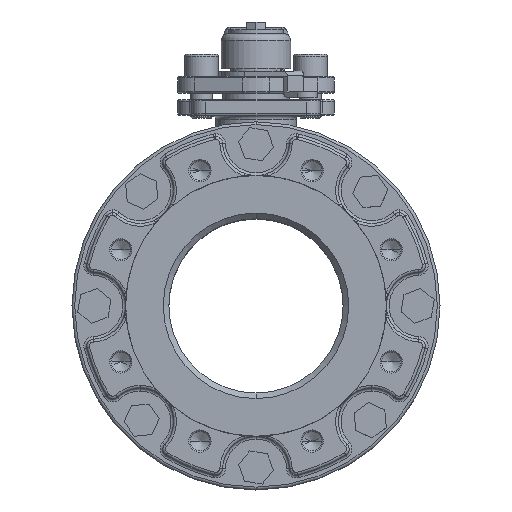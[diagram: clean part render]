
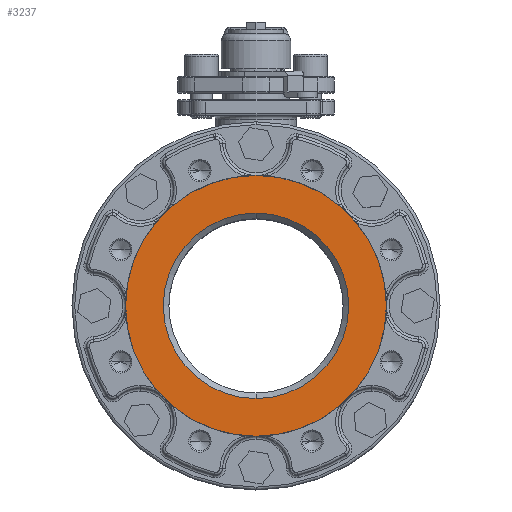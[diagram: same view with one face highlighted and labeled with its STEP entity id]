
A CAD part, top view. The second image highlights one B-rep face of the part: STEP entity #3237.
In plain terms, the highlighted planar face has unit normal (0, 0, 1) as drawn and (1, 0, 0) by its records, which use the part's own axes.
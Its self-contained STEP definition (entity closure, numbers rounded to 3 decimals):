
#1372 = EDGE_CURVE ( 'NONE', #2033, #2034, #8233, .T. ) ;
#1400 = EDGE_CURVE ( 'NONE', #2040, #2047, #8271, .T. ) ;
#2033 = VERTEX_POINT ( 'NONE', #10384 ) ;
#2034 = VERTEX_POINT ( 'NONE', #10385 ) ;
#2040 = VERTEX_POINT ( 'NONE', #10391 ) ;
#2047 = VERTEX_POINT ( 'NONE', #10398 ) ;
#2601 = ORIENTED_EDGE ( 'NONE', *, *, #1372, .T. ) ;
#2602 = ORIENTED_EDGE ( 'NONE', *, *, #3001, .T. ) ;
#2603 = ORIENTED_EDGE ( 'NONE', *, *, #1400, .T. ) ;
#2604 = ORIENTED_EDGE ( 'NONE', *, *, #3002, .T. ) ;
#3001 = EDGE_CURVE ( 'NONE', #2034, #2033, #9748, .T. ) ;
#3002 = EDGE_CURVE ( 'NONE', #2047, #2040, #9745, .T. ) ;
#3237 = ADVANCED_FACE ( 'NONE', ( #11723, #11731 ), #11732, .T. ) ;
#6157 = EDGE_LOOP ( 'NONE', ( #2601, #2602 ) ) ;
#6160 = EDGE_LOOP ( 'NONE', ( #2603, #2604 ) ) ;
#8233 = CIRCLE ( 'NONE', #8237, 66.5 ) ;
#8237 = AXIS2_PLACEMENT_3D ( 'NONE', #8660, #8661, #8662 ) ;
#8271 = CIRCLE ( 'NONE', #8273, 93.5 ) ;
#8273 = AXIS2_PLACEMENT_3D ( 'NONE', #8800, #8801, #8802 ) ;
#8660 = CARTESIAN_POINT ( 'NONE',  ( 97., 0., 0. ) ) ;
#8661 = DIRECTION ( 'NONE',  ( -1., 0., 0. ) ) ;
#8662 = DIRECTION ( 'NONE',  ( 0., 1., 0. ) ) ;
#8800 = CARTESIAN_POINT ( 'NONE',  ( 97., 0., 0. ) ) ;
#8801 = DIRECTION ( 'NONE',  ( 1., 0., 0. ) ) ;
#8802 = DIRECTION ( 'NONE',  ( 0., 1., 0. ) ) ;
#9742 = AXIS2_PLACEMENT_3D ( 'NONE', #10831, #10832, #10833 ) ;
#9744 = AXIS2_PLACEMENT_3D ( 'NONE', #10828, #10829, #10830 ) ;
#9745 = CIRCLE ( 'NONE', #9742, 93.5 ) ;
#9748 = CIRCLE ( 'NONE', #9744, 66.5 ) ;
#10384 = CARTESIAN_POINT ( 'NONE',  ( 97., 66.5, 0. ) ) ;
#10385 = CARTESIAN_POINT ( 'NONE',  ( 97., -66.5, 0. ) ) ;
#10391 = CARTESIAN_POINT ( 'NONE',  ( 97., 93.5, 0. ) ) ;
#10398 = CARTESIAN_POINT ( 'NONE',  ( 97., -93.5, 0. ) ) ;
#10828 = CARTESIAN_POINT ( 'NONE',  ( 97., 0., 0. ) ) ;
#10829 = DIRECTION ( 'NONE',  ( -1., 0., 0. ) ) ;
#10830 = DIRECTION ( 'NONE',  ( 0., 1., 0. ) ) ;
#10831 = CARTESIAN_POINT ( 'NONE',  ( 97., 0., 0. ) ) ;
#10832 = DIRECTION ( 'NONE',  ( 1., 0., 0. ) ) ;
#10833 = DIRECTION ( 'NONE',  ( 0., 1., 0. ) ) ;
#11723 = FACE_BOUND ( 'NONE', #6157, .T. ) ;
#11726 = DIRECTION ( 'NONE',  ( 1., 0., 0. ) ) ;
#11729 = CARTESIAN_POINT ( 'NONE',  ( 97., 93.5, 0. ) ) ;
#11731 = FACE_OUTER_BOUND ( 'NONE', #6160, .T. ) ;
#11732 = PLANE ( 'NONE',  #12280 ) ;
#11734 = DIRECTION ( 'NONE',  ( 0., 1., 0. ) ) ;
#12280 = AXIS2_PLACEMENT_3D ( 'NONE', #11729, #11726, #11734 ) ;
